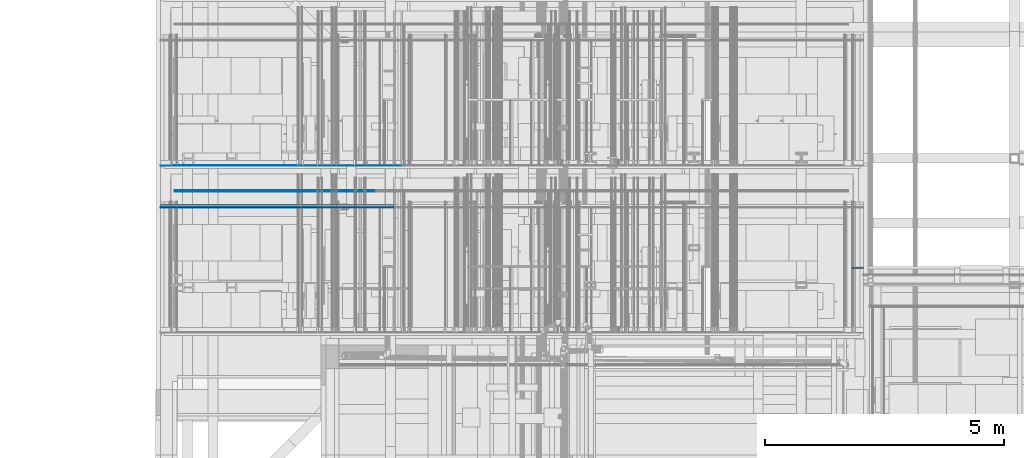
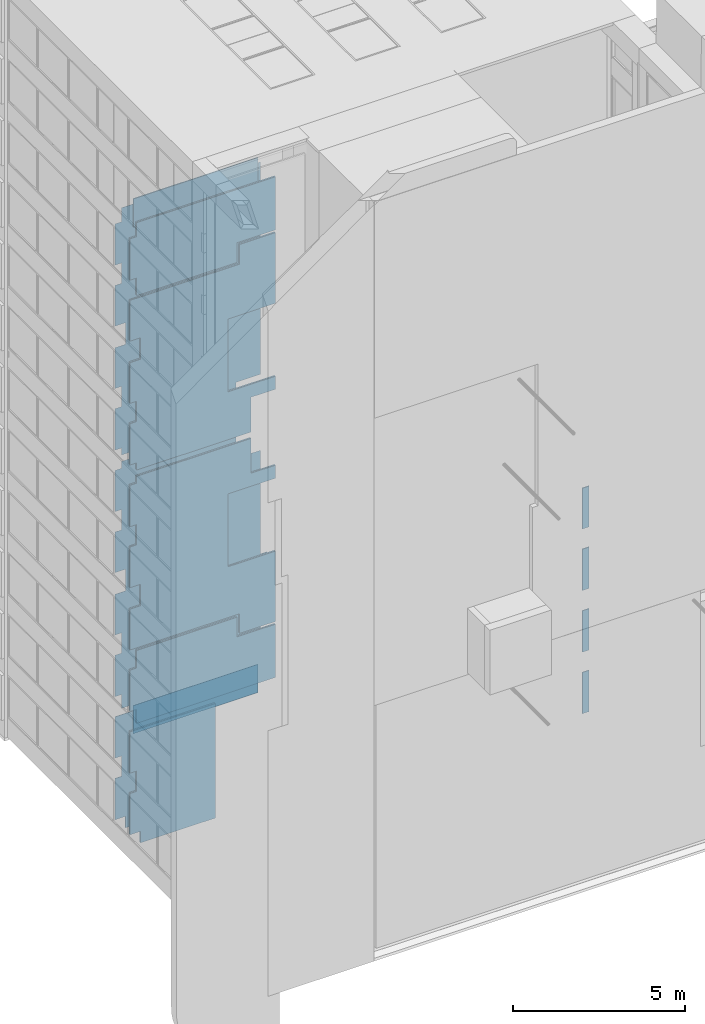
# One storey, part 247 of 583: 21 slabs.
"""IFC2X3 building model written with IfcOpenShell, lengths in metres."""

from ifc_helpers import new_model, entity, si_unit, converted_unit, derived_unit, money_unit, direction, frame, origin_with_axes, place, context, subcontext, project, spatial, faceted_brep, material, type_object, element, save


model = new_model("IFC2X3")

# Units and contexts
model_context = context("Model", 3, precision=1e-05, world=origin_with_axes(), true_north=direction((0.0, 1.0)))
body_context = subcontext(model_context, "Body", "Model", "MODEL_VIEW", scale=1.0)
ifc_project = project(units=[si_unit("LENGTHUNIT", "METRE"), si_unit("AREAUNIT", "SQUARE_METRE"), si_unit("VOLUMEUNIT", "CUBIC_METRE"), si_unit("ABSORBEDDOSEUNIT", "GRAY"), si_unit("AMOUNTOFSUBSTANCEUNIT", "MOLE"), si_unit("DOSEEQUIVALENTUNIT", "SIEVERT"), si_unit("ELECTRICCAPACITANCEUNIT", "FARAD"), si_unit("ELECTRICCHARGEUNIT", "COULOMB"), si_unit("ELECTRICCONDUCTANCEUNIT", "SIEMENS"), si_unit("ELECTRICCURRENTUNIT", "AMPERE"), si_unit("ELECTRICRESISTANCEUNIT", "OHM"), si_unit("ELECTRICVOLTAGEUNIT", "VOLT"), si_unit("ENERGYUNIT", "JOULE"), si_unit("FORCEUNIT", "NEWTON"), si_unit("FREQUENCYUNIT", "HERTZ"), si_unit("ILLUMINANCEUNIT", "LUX"), si_unit("INDUCTANCEUNIT", "HENRY"), si_unit("LUMINOUSFLUXUNIT", "LUMEN"), si_unit("LUMINOUSINTENSITYUNIT", "CANDELA"), si_unit("MAGNETICFLUXDENSITYUNIT", "TESLA"), si_unit("MAGNETICFLUXUNIT", "WEBER"), si_unit("MASSUNIT", "GRAM"), converted_unit("PLANEANGLEUNIT", "degree", entity("IfcReal", 0.0174532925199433), si_unit("PLANEANGLEUNIT", "RADIAN"), dimensions=[0, 0, 0, 0, 0, 0, 0]), si_unit("POWERUNIT", "WATT"), si_unit("PRESSUREUNIT", "PASCAL"), si_unit("RADIOACTIVITYUNIT", "BECQUEREL"), si_unit("SOLIDANGLEUNIT", "STERADIAN"), si_unit("THERMODYNAMICTEMPERATUREUNIT", "KELVIN"), si_unit("TIMEUNIT", "SECOND"), derived_unit("ACCELERATIONUNIT", [(si_unit("LENGTHUNIT", "METRE"), 1), (si_unit("TIMEUNIT", "SECOND"), -2)]), derived_unit("ANGULARVELOCITYUNIT", [(converted_unit("PLANEANGLEUNIT", "degree", entity("IfcReal", 0.0174532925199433), si_unit("PLANEANGLEUNIT", "RADIAN"), dimensions=[0, 0, 0, 0, 0, 0, 0]), 1), (si_unit("TIMEUNIT", "SECOND"), -1)]), derived_unit("CURVATUREUNIT", [(converted_unit("PLANEANGLEUNIT", "degree", entity("IfcReal", 0.0174532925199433), si_unit("PLANEANGLEUNIT", "RADIAN"), dimensions=[0, 0, 0, 0, 0, 0, 0]), 1), (si_unit("LENGTHUNIT", "METRE"), -1)]), derived_unit("DYNAMICVISCOSITYUNIT", [(si_unit("PRESSUREUNIT", "PASCAL"), 1), (si_unit("TIMEUNIT", "SECOND"), 1)]), derived_unit("HEATFLUXDENSITYUNIT", [(si_unit("POWERUNIT", "WATT"), 1), (si_unit("LENGTHUNIT", "METRE"), -2)]), derived_unit("HEATINGVALUEUNIT", [(si_unit("ENERGYUNIT", "JOULE"), 1), (si_unit("MASSUNIT", "GRAM"), -1)]), derived_unit("INTEGERCOUNTRATEUNIT", [(si_unit("TIMEUNIT", "SECOND"), -1)]), derived_unit("IONCONCENTRATIONUNIT", [(si_unit("MASSUNIT", "GRAM"), 1), (si_unit("VOLUMEUNIT", "CUBIC_METRE"), -1)]), derived_unit("ISOTHERMALMOISTURECAPACITYUNIT", [(si_unit("VOLUMEUNIT", "CUBIC_METRE"), 1), (si_unit("MASSUNIT", "GRAM"), -1)]), derived_unit("KINEMATICVISCOSITYUNIT", [(si_unit("AREAUNIT", "SQUARE_METRE"), 1), (si_unit("TIMEUNIT", "SECOND"), -1)]), derived_unit("LINEARFORCEUNIT", [(si_unit("FORCEUNIT", "NEWTON"), 1), (si_unit("LENGTHUNIT", "METRE"), -1)]), derived_unit("LINEARMOMENTUNIT", [(si_unit("FORCEUNIT", "NEWTON"), 1), (si_unit("LENGTHUNIT", "METRE"), -1)]), derived_unit("LINEARSTIFFNESSUNIT", [(si_unit("FORCEUNIT", "NEWTON"), 1), (si_unit("LENGTHUNIT", "METRE"), -1)]), derived_unit("LINEARVELOCITYUNIT", [(si_unit("LENGTHUNIT", "METRE"), 1), (si_unit("TIMEUNIT", "SECOND"), -1)]), derived_unit("LUMINOUSINTENSITYDISTRIBUTIONUNIT", [(si_unit("LUMINOUSINTENSITYUNIT", "CANDELA"), 1), (si_unit("LUMINOUSFLUXUNIT", "LUMEN"), -1)]), derived_unit("MASSDENSITYUNIT", [(si_unit("MASSUNIT", "GRAM"), 1), (si_unit("VOLUMEUNIT", "CUBIC_METRE"), -1)]), derived_unit("MASSFLOWRATEUNIT", [(si_unit("MASSUNIT", "GRAM"), 1), (si_unit("TIMEUNIT", "SECOND"), -1)]), derived_unit("MASSPERLENGTHUNIT", [(si_unit("MASSUNIT", "GRAM"), 1), (si_unit("LENGTHUNIT", "METRE"), -1)]), derived_unit("MODULUSOFELASTICITYUNIT", [(si_unit("FORCEUNIT", "NEWTON"), 1), (si_unit("AREAUNIT", "SQUARE_METRE"), -1)]), derived_unit("MODULUSOFLINEARSUBGRADEREACTIONUNIT", [(si_unit("FORCEUNIT", "NEWTON"), 1), (si_unit("LENGTHUNIT", "METRE"), -2)]), derived_unit("MODULUSOFROTATIONALSUBGRADEREACTIONUNIT", [(si_unit("FORCEUNIT", "NEWTON"), 1), (si_unit("LENGTHUNIT", "METRE"), 1)]), derived_unit("MODULUSOFSUBGRADEREACTIONUNIT", [(si_unit("FORCEUNIT", "NEWTON"), 1), (si_unit("VOLUMEUNIT", "CUBIC_METRE"), -1)]), derived_unit("MOISTUREDIFFUSIVITYUNIT", [(si_unit("VOLUMEUNIT", "CUBIC_METRE"), 1), (si_unit("TIMEUNIT", "SECOND"), -1)]), derived_unit("MOLECULARWEIGHTUNIT", [(si_unit("MASSUNIT", "GRAM"), 1), (si_unit("AMOUNTOFSUBSTANCEUNIT", "MOLE"), -1)]), derived_unit("PLANARFORCEUNIT", [(si_unit("FORCEUNIT", "NEWTON"), 1), (si_unit("LENGTHUNIT", "METRE"), -2)]), derived_unit("ROTATIONALFREQUENCYUNIT", [(si_unit("TIMEUNIT", "SECOND"), -1)]), derived_unit("ROTATIONALMASSUNIT", [(si_unit("MASSUNIT", "GRAM"), 1), (si_unit("LENGTHUNIT", "METRE"), 2)]), derived_unit("ROTATIONALSTIFFNESSUNIT", [(si_unit("FORCEUNIT", "NEWTON"), 1), (si_unit("LENGTHUNIT", "METRE"), 1), (converted_unit("PLANEANGLEUNIT", "degree", entity("IfcReal", 0.0174532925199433), si_unit("PLANEANGLEUNIT", "RADIAN"), dimensions=[0, 0, 0, 0, 0, 0, 0]), -1)]), derived_unit("SECTIONAREAINTEGRALUNIT", [(si_unit("LENGTHUNIT", "METRE"), 5)]), derived_unit("SECTIONMODULUSUNIT", [(si_unit("LENGTHUNIT", "METRE"), 3)]), derived_unit("SHEARMODULUSUNIT", [(si_unit("FORCEUNIT", "NEWTON"), 1), (si_unit("AREAUNIT", "SQUARE_METRE"), -1)]), derived_unit("SOUNDPOWERUNIT", [(si_unit("ENERGYUNIT", "JOULE"), 1), (si_unit("TIMEUNIT", "SECOND"), -1)]), derived_unit("SPECIFICHEATCAPACITYUNIT", [(si_unit("FORCEUNIT", "NEWTON"), 1), (si_unit("MASSUNIT", "GRAM"), -1), (si_unit("THERMODYNAMICTEMPERATUREUNIT", "KELVIN"), -1)]), derived_unit("TEMPERATUREGRADIENTUNIT", [(si_unit("THERMODYNAMICTEMPERATUREUNIT", "KELVIN"), 1), (si_unit("LENGTHUNIT", "METRE"), -1)]), derived_unit("THERMALADMITTANCEUNIT", [(si_unit("POWERUNIT", "WATT"), 1), (si_unit("AREAUNIT", "SQUARE_METRE"), -1), (si_unit("THERMODYNAMICTEMPERATUREUNIT", "KELVIN"), -1)]), derived_unit("THERMALCONDUCTANCEUNIT", [(si_unit("POWERUNIT", "WATT"), 1), (si_unit("LENGTHUNIT", "METRE"), -1), (si_unit("THERMODYNAMICTEMPERATUREUNIT", "KELVIN"), -1)]), derived_unit("THERMALEXPANSIONCOEFFICIENTUNIT", [(si_unit("THERMODYNAMICTEMPERATUREUNIT", "KELVIN"), -1)]), derived_unit("THERMALRESISTANCEUNIT", [(si_unit("AREAUNIT", "SQUARE_METRE"), 1), (si_unit("POWERUNIT", "WATT"), -1)]), derived_unit("THERMALTRANSMITTANCEUNIT", [(si_unit("POWERUNIT", "WATT"), 1), (si_unit("AREAUNIT", "SQUARE_METRE"), -1), (si_unit("THERMODYNAMICTEMPERATUREUNIT", "KELVIN"), -1)]), derived_unit("TORQUEUNIT", [(si_unit("FORCEUNIT", "NEWTON"), 1), (si_unit("LENGTHUNIT", "METRE"), 1)]), derived_unit("VAPORPERMEABILITYUNIT", [(si_unit("MASSUNIT", "GRAM"), 1), (si_unit("TIMEUNIT", "SECOND"), -1)]), derived_unit("VOLUMETRICFLOWRATEUNIT", [(si_unit("VOLUMEUNIT", "CUBIC_METRE"), 1), (si_unit("TIMEUNIT", "SECOND"), -1)]), derived_unit("WARPINGCONSTANTUNIT", [(si_unit("LENGTHUNIT", "METRE"), 6)]), derived_unit("WARPINGMOMENTUNIT", [(si_unit("FORCEUNIT", "NEWTON"), 1), (si_unit("LENGTHUNIT", "METRE"), 2)]), money_unit("GBP")], contexts=[model_context])

# Site, building, storey
site_placement = place(None, origin_with_axes())
site = spatial("IfcSite", under=ifc_project, at=site_placement, Name="Site", CompositionType="ELEMENT")
building_placement = place(site_placement, origin_with_axes())
building = spatial("IfcBuilding", under=site, at=building_placement, Name="Building01", CompositionType="ELEMENT")
storey_placement = place(building_placement, frame((0.0, 0.0, 20.78), z_axis=(0.0, 0.0, 1.0), x_axis=(1.0, 0.0, 0.0)))
storey = spatial("IfcBuildingStorey", under=building, at=storey_placement, Name="RL", CompositionType="ELEMENT", Elevation=20.78)

# Slabs
ifc_material_1 = material(Name="A_BSUK_CeilingSoffitFinishes_Suspended")
slab_type_1 = type_object("IfcSlabType", Name="A-FloorsSlabs A_BSUK_Slabs", PredefinedType="FLOOR")
placement = place(storey_placement, frame((0.0, 0.0, -20.78), z_axis=(0.0, 0.0, 1.0), x_axis=(1.0, 0.0, 0.0)))
element("IfcSlab", 1, at=placement, inside=storey, type_object=slab_type_1, material=ifc_material_1, Name="A-FloorsSlabs A_BSUK_Slabs", ObjectType="CompoundSlabLeaf", context=body_context, shape_type="Brep", body=[
    faceted_brep([(4.98, 7.765, 8.6725), (4.98, 7.78, 8.6725), (4.98, 7.78, 9.097536), (4.98, 7.765, 9.097536), (4.98, 7.765, 7.6725), (4.98, 7.78, 7.6725), (4.98, 7.765, 6.595), (4.98, 7.78, 6.595), (3.78, 7.765, 6.595), (3.78, 7.78, 6.595), (3.78, 7.765, 7.295), (3.78, 7.78, 7.295), (3.151781, 7.765, 7.295), (3.151781, 7.78, 7.295), (0.1, 7.765, 7.295), (0.1, 7.78, 7.295), (0.1, 7.765, 8.742), (0.1, 7.78, 8.742), (0.448, 7.765, 8.742), (0.448, 7.78, 8.742), (0.448, 7.765, 9.508), (0.448, 7.78, 9.508), (0.1, 7.765, 9.508), (0.1, 7.78, 9.508), (0.1, 7.765, 10.955), (0.1, 7.78, 10.955), (0.318, 7.765, 10.955), (0.318, 7.78, 10.955), (0.318, 7.765, 11.675), (0.318, 7.78, 11.675), (0.1, 7.765, 11.675), (0.1, 7.78, 11.675), (0.1, 7.765, 13.145), (0.1, 7.78, 13.145), (0.318, 7.765, 13.145), (0.318, 7.78, 13.145), (0.318, 7.765, 13.3875), (0.318, 7.78, 13.3875), (4.164428, 7.765, 13.3875), (4.164428, 7.78, 13.3875), (4.164428, 7.765, 12.15), (4.164428, 7.78, 12.15), (4.98, 7.765, 12.15), (4.98, 7.78, 12.15), (4.98, 7.765, 11.687536), (4.98, 7.78, 11.687536), (3.385, 7.765, 11.687536), (3.385, 7.78, 11.687536), (3.385, 7.765, 9.097536), (3.385, 7.78, 9.097536)], [[[0, 1, 2, 3]], [[4, 5, 1, 0]], [[6, 7, 5, 4]], [[8, 9, 7, 6]], [[10, 11, 9, 8]], [[12, 13, 11, 10]], [[14, 15, 13, 12]], [[16, 17, 15, 14]], [[18, 19, 17, 16]], [[20, 21, 19, 18]], [[22, 23, 21, 20]], [[24, 25, 23, 22]], [[26, 27, 25, 24]], [[28, 29, 27, 26]], [[30, 31, 29, 28]], [[32, 33, 31, 30]], [[34, 35, 33, 32]], [[36, 37, 35, 34]], [[38, 39, 37, 36]], [[40, 41, 39, 38]], [[42, 43, 41, 40]], [[44, 45, 43, 42]], [[46, 47, 45, 44]], [[48, 49, 47, 46]], [[3, 2, 49, 48]], [[1, 5, 7, 9, 11, 13, 15, 17, 19, 21, 23, 25, 27, 29, 31, 33, 35, 37, 39, 41, 43, 45, 47, 49, 2]], [[3, 48, 46, 44, 42, 40, 38, 36, 34, 32, 30, 28, 26, 24, 22, 20, 18, 16, 14, 12, 10, 8, 6, 4, 0]]]),
])
element("IfcSlab", 2, at=placement, inside=storey, type_object=slab_type_1, material=ifc_material_1, Name="A-FloorsSlabs A_BSUK_Slabs", ObjectType="CompoundSlabLeaf", context=body_context, shape_type="Brep", body=[
    faceted_brep([(4.98, 7.765, 17.9025), (4.98, 7.78, 17.9025), (4.98, 7.78, 18.395), (4.98, 7.765, 18.395), (4.232781, 7.765, 17.9025), (4.232781, 7.78, 17.9025), (3.385, 7.765, 17.9025), (3.385, 7.78, 17.9025), (3.385, 7.765, 15.3125), (3.385, 7.78, 15.3125), (4.98, 7.765, 15.3125), (4.98, 7.78, 15.3125), (4.98, 7.765, 14.85), (4.98, 7.78, 14.85), (4.164428, 7.765, 14.85), (4.164428, 7.78, 14.85), (4.164428, 7.765, 13.6125), (4.164428, 7.78, 13.6125), (0.318, 7.765, 13.6125), (0.318, 7.78, 13.6125), (0.318, 7.765, 13.865), (0.318, 7.78, 13.865), (0.1, 7.765, 13.865), (0.1, 7.78, 13.865), (0.1, 7.765, 15.335), (0.1, 7.78, 15.335), (0.318, 7.765, 15.335), (0.318, 7.78, 15.335), (0.318, 7.765, 16.055), (0.318, 7.78, 16.055), (0.1, 7.765, 16.055), (0.1, 7.78, 16.055), (0.1, 7.765, 17.502), (0.1, 7.78, 17.502), (0.448, 7.765, 17.502), (0.448, 7.78, 17.502), (0.448, 7.765, 18.268), (0.448, 7.78, 18.268), (0.1, 7.765, 18.268), (0.1, 7.78, 18.268), (0.1, 7.765, 19.715), (0.1, 7.78, 19.715), (3.151781, 7.765, 19.715), (3.151781, 7.78, 19.715), (3.78, 7.765, 19.715), (3.78, 7.78, 19.715), (3.78, 7.765, 20.415), (3.78, 7.78, 20.415), (4.98, 7.765, 20.415), (4.98, 7.78, 20.415), (4.98, 7.765, 19.395), (4.98, 7.78, 19.395)], [[[0, 1, 2, 3]], [[4, 5, 1, 0]], [[6, 7, 5, 4]], [[8, 9, 7, 6]], [[10, 11, 9, 8]], [[12, 13, 11, 10]], [[14, 15, 13, 12]], [[16, 17, 15, 14]], [[18, 19, 17, 16]], [[20, 21, 19, 18]], [[22, 23, 21, 20]], [[24, 25, 23, 22]], [[26, 27, 25, 24]], [[28, 29, 27, 26]], [[30, 31, 29, 28]], [[32, 33, 31, 30]], [[34, 35, 33, 32]], [[36, 37, 35, 34]], [[38, 39, 37, 36]], [[40, 41, 39, 38]], [[42, 43, 41, 40]], [[44, 45, 43, 42]], [[46, 47, 45, 44]], [[48, 49, 47, 46]], [[50, 51, 49, 48]], [[3, 2, 51, 50]], [[1, 5, 7, 9, 11, 13, 15, 17, 19, 21, 23, 25, 27, 29, 31, 33, 35, 37, 39, 41, 43, 45, 47, 49, 51, 2]], [[3, 50, 48, 46, 44, 42, 40, 38, 36, 34, 32, 30, 28, 26, 24, 22, 20, 18, 16, 14, 12, 10, 8, 6, 4, 0]]]),
])
element("IfcSlab", 3, at=placement, inside=storey, type_object=slab_type_1, material=ifc_material_1, Name="A-FloorsSlabs A_BSUK_Slabs", ObjectType="CompoundSlabLeaf", context=body_context, shape_type="Brep", body=[
    faceted_brep([(4.98, 7.765, 20.51), (4.98, 7.78, 20.51), (4.98, 7.78, 22.4), (4.98, 7.765, 22.4), (3.685, 7.765, 20.51), (3.685, 7.78, 20.51), (3.685, 7.765, 19.81), (3.685, 7.78, 19.81), (0.318, 7.765, 19.81), (0.318, 7.78, 19.81), (0.318, 7.765, 20.435), (0.318, 7.78, 20.435), (0.1, 7.765, 20.435), (0.1, 7.78, 20.435), (0.1, 7.765, 21.905), (0.1, 7.78, 21.905), (0.318, 7.765, 21.905), (0.318, 7.78, 21.905), (0.318, 7.765, 22.4), (0.318, 7.78, 22.4)], [[[0, 1, 2, 3]], [[4, 5, 1, 0]], [[6, 7, 5, 4]], [[8, 9, 7, 6]], [[10, 11, 9, 8]], [[12, 13, 11, 10]], [[14, 15, 13, 12]], [[16, 17, 15, 14]], [[18, 19, 17, 16]], [[3, 2, 19, 18]], [[1, 5, 7, 9, 11, 13, 15, 17, 19, 2]], [[3, 18, 16, 14, 12, 10, 8, 6, 4, 0]]]),
])
element("IfcSlab", 4, at=placement, inside=storey, type_object=slab_type_1, material=ifc_material_1, Name="A-FloorsSlabs A_BSUK_Slabs", ObjectType="CompoundSlabLeaf", context=body_context, shape_type="Brep", body=[
    faceted_brep([(4.98, 7.765, 4.61), (4.98, 7.78, 4.61), (4.98, 7.78, 6.5), (4.98, 7.765, 6.5), (0.318, 7.765, 4.61), (0.318, 7.78, 4.61), (0.318, 7.765, 5.105), (0.318, 7.78, 5.105), (0.1, 7.765, 5.105), (0.1, 7.78, 5.105), (0.1, 7.765, 6.575), (0.1, 7.78, 6.575), (0.318, 7.765, 6.575), (0.318, 7.78, 6.575), (0.318, 7.765, 7.2), (0.318, 7.78, 7.2), (3.685, 7.765, 7.2), (3.685, 7.78, 7.2), (3.685, 7.765, 6.5), (3.685, 7.78, 6.5)], [[[0, 1, 2, 3]], [[4, 5, 1, 0]], [[6, 7, 5, 4]], [[8, 9, 7, 6]], [[10, 11, 9, 8]], [[12, 13, 11, 10]], [[14, 15, 13, 12]], [[16, 17, 15, 14]], [[18, 19, 17, 16]], [[3, 2, 19, 18]], [[1, 5, 7, 9, 11, 13, 15, 17, 19, 2]], [[3, 18, 16, 14, 12, 10, 8, 6, 4, 0]]]),
])
element("IfcSlab", 5, at=placement, inside=storey, type_object=slab_type_1, material=ifc_material_1, Name="A-FloorsSlabs A_BSUK_Slabs", ObjectType="CompoundSlabLeaf", context=body_context, shape_type="Brep", body=[
    faceted_brep([(0.448, 7.765, 0.318), (0.448, 7.78, 0.318), (2.970286, 7.78, 0.318), (2.970286, 7.765, 0.318), (0.448, 7.765, 0.725), (0.448, 7.78, 0.725), (0.1, 7.765, 0.725), (0.1, 7.78, 0.725), (0.1, 7.765, 2.195), (0.1, 7.78, 2.195), (0.318, 7.765, 2.195), (0.318, 7.78, 2.195), (0.318, 7.765, 2.915), (0.318, 7.78, 2.915), (0.1, 7.765, 2.915), (0.1, 7.78, 2.915), (0.1, 7.765, 4.385), (0.1, 7.78, 4.385), (2.970286, 7.765, 4.385), (2.970286, 7.78, 4.385)], [[[0, 1, 2, 3]], [[4, 5, 1, 0]], [[6, 7, 5, 4]], [[8, 9, 7, 6]], [[10, 11, 9, 8]], [[12, 13, 11, 10]], [[14, 15, 13, 12]], [[16, 17, 15, 14]], [[18, 19, 17, 16]], [[3, 2, 19, 18]], [[1, 5, 7, 9, 11, 13, 15, 17, 19, 2]], [[3, 18, 16, 14, 12, 10, 8, 6, 4, 0]]]),
])
ifc_material_2 = material(Name="A_BSUK_Timber_Miscellaneous")
element("IfcSlab", 6, at=placement, inside=storey, type_object=slab_type_1, material=ifc_material_2, Name="A-FloorsSlabs A_BSUK_Slabs", ObjectType="CompoundSlabLeaf", context=body_context, shape_type="Brep", body=[
    faceted_brep([(14.567, 6.5, 0.725), (14.567, 6.525, 0.725), (14.800002, 6.525, 0.725), (14.800002, 6.5, 0.725), (14.567, 6.5, 2.195), (14.567, 6.525, 2.195), (14.8, 6.5, 2.195), (14.8, 6.525, 2.195)], [[[0, 1, 2, 3]], [[4, 5, 1, 0]], [[6, 7, 5, 4]], [[3, 2, 7, 6]], [[1, 5, 7, 2]], [[3, 6, 4, 0]]]),
])
element("IfcSlab", 7, at=placement, inside=storey, type_object=slab_type_1, material=ifc_material_2, Name="A-FloorsSlabs A_BSUK_Slabs", ObjectType="CompoundSlabLeaf", context=body_context, shape_type="Brep", body=[
    faceted_brep([(14.567, 6.5, 2.915), (14.567, 6.525, 2.915), (14.800002, 6.525, 2.915), (14.800002, 6.5, 2.915), (14.567, 6.5, 4.385), (14.567, 6.525, 4.385), (14.8, 6.5, 4.385), (14.8, 6.525, 4.385)], [[[0, 1, 2, 3]], [[4, 5, 1, 0]], [[6, 7, 5, 4]], [[3, 2, 7, 6]], [[1, 5, 7, 2]], [[3, 6, 4, 0]]]),
])
element("IfcSlab", 8, at=placement, inside=storey, type_object=slab_type_1, material=ifc_material_2, Name="A-FloorsSlabs A_BSUK_Slabs", ObjectType="CompoundSlabLeaf", context=body_context, shape_type="Brep", body=[
    faceted_brep([(14.567, 6.5, 5.105), (14.567, 6.525, 5.105), (14.800002, 6.525, 5.105), (14.800002, 6.5, 5.105), (14.567, 6.5, 6.575), (14.567, 6.525, 6.575), (14.8, 6.5, 6.575), (14.8, 6.525, 6.575)], [[[0, 1, 2, 3]], [[4, 5, 1, 0]], [[6, 7, 5, 4]], [[3, 2, 7, 6]], [[1, 5, 7, 2]], [[3, 6, 4, 0]]]),
])
element("IfcSlab", 9, at=placement, inside=storey, type_object=slab_type_1, material=ifc_material_2, Name="A-FloorsSlabs A_BSUK_Slabs", ObjectType="CompoundSlabLeaf", context=body_context, shape_type="Brep", body=[
    faceted_brep([(14.567, 6.5, 7.289669), (14.567, 6.525, 7.289669), (14.800002, 6.525, 7.289669), (14.800002, 6.5, 7.289669), (14.567, 6.5, 8.742124), (14.567, 6.525, 8.742124), (14.8, 6.5, 8.742124), (14.8, 6.525, 8.742124)], [[[0, 1, 2, 3]], [[4, 5, 1, 0]], [[6, 7, 5, 4]], [[3, 2, 7, 6]], [[1, 5, 7, 2]], [[3, 6, 4, 0]]]),
])
element("IfcSlab", 10, at=placement, inside=storey, type_object=slab_type_1, material=ifc_material_1, Name="A-FloorsSlabs A_BSUK_Slabs", ObjectType="CompoundSlabLeaf", context=body_context, shape_type="Brep", body=[
    faceted_brep([(0.4, 8.115, 22.0125), (0.4, 8.13, 22.0125), (4.593, 8.13, 22.0125), (4.593, 8.115, 22.0125), (0.4, 8.115, 23.0125), (0.4, 8.13, 23.0125), (4.593, 8.115, 23.0125), (4.593, 8.13, 23.0125)], [[[0, 1, 2, 3]], [[4, 5, 1, 0]], [[6, 7, 5, 4]], [[3, 2, 7, 6]], [[1, 5, 7, 2]], [[3, 6, 4, 0]]]),
])
element("IfcSlab", 11, at=placement, inside=storey, type_object=slab_type_1, material=ifc_material_1, Name="A-FloorsSlabs A_BSUK_Slabs", ObjectType="CompoundSlabLeaf", context=body_context, shape_type="Brep", body=[
    faceted_brep([(0.4, 8.115, 3.997), (0.4, 8.13, 3.997), (4.593, 8.13, 3.997), (4.593, 8.115, 3.997), (0.4, 8.115, 4.997), (0.4, 8.13, 4.997), (4.593, 8.115, 4.997), (4.593, 8.13, 4.997)], [[[0, 1, 2, 3]], [[4, 5, 1, 0]], [[6, 7, 5, 4]], [[3, 2, 7, 6]], [[1, 5, 7, 2]], [[3, 6, 4, 0]]]),
])
element("IfcSlab", 12, at=placement, inside=storey, type_object=slab_type_1, material=ifc_material_1, Name="A-FloorsSlabs A_BSUK_Slabs", ObjectType="CompoundSlabLeaf", context=body_context, shape_type="Brep", body=[
    faceted_brep([(0.4, 8.1, 22.0125), (0.4, 8.115, 22.0125), (4.593, 8.115, 22.0125), (4.593, 8.1, 22.0125), (0.4, 8.1, 23.0125), (0.4, 8.115, 23.0125), (4.593, 8.1, 23.0125), (4.593, 8.115, 23.0125)], [[[0, 1, 2, 3]], [[4, 5, 1, 0]], [[6, 7, 5, 4]], [[3, 2, 7, 6]], [[1, 5, 7, 2]], [[3, 6, 4, 0]]]),
])
element("IfcSlab", 13, at=placement, inside=storey, type_object=slab_type_1, material=ifc_material_1, Name="A-FloorsSlabs A_BSUK_Slabs", ObjectType="CompoundSlabLeaf", context=body_context, shape_type="Brep", body=[
    faceted_brep([(0.4, 8.1, 3.997), (0.4, 8.115, 3.997), (4.593, 8.115, 3.997), (4.593, 8.1, 3.997), (0.4, 8.1, 4.997), (0.4, 8.115, 4.997), (4.593, 8.1, 4.997), (4.593, 8.115, 4.997)], [[[0, 1, 2, 3]], [[4, 5, 1, 0]], [[6, 7, 5, 4]], [[3, 2, 7, 6]], [[1, 5, 7, 2]], [[3, 6, 4, 0]]]),
])
ifc_material_3 = material(Name="A_BSUK_ExpandedPolystyreneBoards")
element("IfcSlab", 14, at=placement, inside=storey, type_object=slab_type_1, material=ifc_material_3, Name="A-FloorsSlabs A_BSUK_Slabs", ObjectType="CompoundSlabLeaf", context=body_context, shape_type="Brep", body=[
    faceted_brep([(4.164428, 8.64, 14.85), (4.164428, 8.643, 14.85), (4.98, 8.643, 14.85), (4.98, 8.64, 14.85), (4.164428, 8.64, 13.6125), (4.164428, 8.643, 13.6125), (0.318, 8.64, 13.6125), (0.318, 8.643, 13.6125), (0.318, 8.64, 13.865), (0.318, 8.643, 13.865), (0.1, 8.64, 13.865), (0.1, 8.643, 13.865), (0.1, 8.64, 15.335), (0.1, 8.643, 15.335), (0.318, 8.64, 15.335), (0.318, 8.643, 15.335), (0.318, 8.64, 16.055), (0.318, 8.643, 16.055), (0.1, 8.64, 16.055), (0.1, 8.643, 16.055), (0.1, 8.64, 17.502), (0.1, 8.643, 17.502), (0.448, 8.64, 17.502), (0.448, 8.643, 17.502), (0.448, 8.64, 18.268), (0.448, 8.643, 18.268), (0.1, 8.64, 18.268), (0.1, 8.643, 18.268), (0.1, 8.64, 19.715), (0.1, 8.643, 19.715), (0.318, 8.64, 19.715), (0.318, 8.643, 19.715), (0.318, 8.64, 20.435), (0.318, 8.643, 20.435), (0.1, 8.64, 20.435), (0.1, 8.643, 20.435), (0.1, 8.64, 21.905), (0.1, 8.643, 21.905), (0.318, 8.64, 21.905), (0.318, 8.643, 21.905), (0.318, 8.64, 22.4), (0.318, 8.643, 22.4), (4.98, 8.64, 22.4), (4.98, 8.643, 22.4), (4.98, 8.64, 19.392), (4.98, 8.643, 19.392), (5.205, 8.64, 19.392), (5.205, 8.643, 19.392), (5.205, 8.64, 18.392), (5.205, 8.643, 18.392), (4.98, 8.64, 18.392), (4.98, 8.643, 18.392), (4.98, 8.64, 18.0), (4.98, 8.643, 18.0)], [[[0, 1, 2, 3]], [[4, 5, 1, 0]], [[6, 7, 5, 4]], [[8, 9, 7, 6]], [[10, 11, 9, 8]], [[12, 13, 11, 10]], [[14, 15, 13, 12]], [[16, 17, 15, 14]], [[18, 19, 17, 16]], [[20, 21, 19, 18]], [[22, 23, 21, 20]], [[24, 25, 23, 22]], [[26, 27, 25, 24]], [[28, 29, 27, 26]], [[30, 31, 29, 28]], [[32, 33, 31, 30]], [[34, 35, 33, 32]], [[36, 37, 35, 34]], [[38, 39, 37, 36]], [[40, 41, 39, 38]], [[42, 43, 41, 40]], [[44, 45, 43, 42]], [[46, 47, 45, 44]], [[48, 49, 47, 46]], [[50, 51, 49, 48]], [[52, 53, 51, 50]], [[3, 2, 53, 52]], [[1, 5, 7, 9, 11, 13, 15, 17, 19, 21, 23, 25, 27, 29, 31, 33, 35, 37, 39, 41, 43, 45, 47, 49, 51, 53, 2]], [[3, 52, 50, 48, 46, 44, 42, 40, 38, 36, 34, 32, 30, 28, 26, 24, 22, 20, 18, 16, 14, 12, 10, 8, 6, 4, 0]]]),
])
element("IfcSlab", 15, at=placement, inside=storey, type_object=slab_type_1, material=ifc_material_3, Name="A-FloorsSlabs A_BSUK_Slabs", ObjectType="CompoundSlabLeaf", context=body_context, shape_type="Brep", body=[
    faceted_brep([(4.98, 8.64, 12.15), (4.98, 8.643, 12.15), (4.164428, 8.643, 12.15), (4.164428, 8.64, 12.15), (4.98, 8.64, 9.0), (4.98, 8.643, 9.0), (4.98, 8.64, 8.4725), (4.98, 8.643, 8.4725), (5.205, 8.64, 8.4725), (5.205, 8.643, 8.4725), (5.205, 8.64, 7.4725), (5.205, 8.643, 7.4725), (4.98, 8.64, 7.4725), (4.98, 8.643, 7.4725), (4.98, 8.64, 4.61), (4.98, 8.643, 4.61), (0.318, 8.64, 4.61), (0.318, 8.643, 4.61), (0.318, 8.64, 5.105), (0.318, 8.643, 5.105), (0.1, 8.64, 5.105), (0.1, 8.643, 5.105), (0.1, 8.64, 6.575), (0.1, 8.643, 6.575), (0.318, 8.64, 6.575), (0.318, 8.643, 6.575), (0.318, 8.64, 7.295), (0.318, 8.643, 7.295), (0.1, 8.64, 7.295), (0.1, 8.643, 7.295), (0.1, 8.64, 8.742), (0.1, 8.643, 8.742), (0.448, 8.64, 8.742), (0.448, 8.643, 8.742), (0.448, 8.64, 9.508), (0.448, 8.643, 9.508), (0.1, 8.64, 9.508), (0.1, 8.643, 9.508), (0.1, 8.64, 10.955), (0.1, 8.643, 10.955), (0.318, 8.64, 10.955), (0.318, 8.643, 10.955), (0.318, 8.64, 11.675), (0.318, 8.643, 11.675), (0.1, 8.64, 11.675), (0.1, 8.643, 11.675), (0.1, 8.64, 13.145), (0.1, 8.643, 13.145), (0.318, 8.64, 13.145), (0.318, 8.643, 13.145), (0.318, 8.64, 13.3875), (0.318, 8.643, 13.3875), (4.164428, 8.64, 13.3875), (4.164428, 8.643, 13.3875)], [[[0, 1, 2, 3]], [[4, 5, 1, 0]], [[6, 7, 5, 4]], [[8, 9, 7, 6]], [[10, 11, 9, 8]], [[12, 13, 11, 10]], [[14, 15, 13, 12]], [[16, 17, 15, 14]], [[18, 19, 17, 16]], [[20, 21, 19, 18]], [[22, 23, 21, 20]], [[24, 25, 23, 22]], [[26, 27, 25, 24]], [[28, 29, 27, 26]], [[30, 31, 29, 28]], [[32, 33, 31, 30]], [[34, 35, 33, 32]], [[36, 37, 35, 34]], [[38, 39, 37, 36]], [[40, 41, 39, 38]], [[42, 43, 41, 40]], [[44, 45, 43, 42]], [[46, 47, 45, 44]], [[48, 49, 47, 46]], [[50, 51, 49, 48]], [[52, 53, 51, 50]], [[3, 2, 53, 52]], [[1, 5, 7, 9, 11, 13, 15, 17, 19, 21, 23, 25, 27, 29, 31, 33, 35, 37, 39, 41, 43, 45, 47, 49, 51, 53, 2]], [[3, 52, 50, 48, 46, 44, 42, 40, 38, 36, 34, 32, 30, 28, 26, 24, 22, 20, 18, 16, 14, 12, 10, 8, 6, 4, 0]]]),
])
ifc_material_4 = material(Name="A_BSUK_Carpet-Pile")
element("IfcSlab", 16, at=placement, inside=storey, type_object=slab_type_1, material=ifc_material_4, Name="A-FloorsSlabs A_BSUK_Slabs", ObjectType="CompoundSlabLeaf", context=body_context, shape_type="Brep", body=[
    faceted_brep([(0.448, 8.643, 0.318), (0.448, 8.655, 0.318), (2.970286, 8.655, 0.318), (2.970286, 8.643, 0.318), (0.448, 8.643, 0.725), (0.448, 8.655, 0.725), (0.1, 8.643, 0.725), (0.1, 8.655, 0.725), (0.1, 8.643, 2.195), (0.1, 8.655, 2.195), (0.318, 8.643, 2.195), (0.318, 8.655, 2.195), (0.318, 8.643, 2.915), (0.318, 8.655, 2.915), (0.1, 8.643, 2.915), (0.1, 8.655, 2.915), (0.1, 8.643, 4.385), (0.1, 8.655, 4.385), (2.970286, 8.643, 4.385), (2.970286, 8.655, 4.385)], [[[0, 1, 2, 3]], [[4, 5, 1, 0]], [[6, 7, 5, 4]], [[8, 9, 7, 6]], [[10, 11, 9, 8]], [[12, 13, 11, 10]], [[14, 15, 13, 12]], [[16, 17, 15, 14]], [[18, 19, 17, 16]], [[3, 2, 19, 18]], [[1, 5, 7, 9, 11, 13, 15, 17, 19, 2]], [[3, 18, 16, 14, 12, 10, 8, 6, 4, 0]]]),
])
slab_type_2 = type_object("IfcSlabType", Name="A-FloorsSlabs A_BSUK_ExpandedPolystyreneBoards", PredefinedType="FLOOR")
element("IfcSlab", 17, at=placement, inside=storey, type_object=slab_type_2, material=ifc_material_3, Name="A-FloorsSlabs A_BSUK_ExpandedPolystyreneBoards", ObjectType="CompoundSlabLeaf", context=body_context, shape_type="Brep", body=[
    faceted_brep([(4.98, 7.78, 8.6725), (4.98, 7.83, 8.6725), (4.98, 7.83, 9.097536), (4.98, 7.78, 9.097536), (4.98, 7.78, 7.6725), (4.98, 7.83, 7.6725), (4.98, 7.78, 6.595), (4.98, 7.83, 6.595), (3.78, 7.78, 6.595), (3.78, 7.83, 6.595), (3.78, 7.78, 7.295), (3.78, 7.83, 7.295), (3.151781, 7.78, 7.295), (3.151781, 7.83, 7.295), (0.1, 7.78, 7.295), (0.1, 7.83, 7.295), (0.1, 7.78, 8.742), (0.1, 7.83, 8.742), (0.448, 7.78, 8.742), (0.448, 7.83, 8.742), (0.448, 7.78, 9.508), (0.448, 7.83, 9.508), (0.1, 7.78, 9.508), (0.1, 7.83, 9.508), (0.1, 7.78, 10.955), (0.1, 7.83, 10.955), (0.318, 7.78, 10.955), (0.318, 7.83, 10.955), (0.318, 7.78, 11.675), (0.318, 7.83, 11.675), (0.1, 7.78, 11.675), (0.1, 7.83, 11.675), (0.1, 7.78, 13.145), (0.1, 7.83, 13.145), (0.318, 7.78, 13.145), (0.318, 7.83, 13.145), (0.318, 7.78, 13.3875), (0.318, 7.83, 13.3875), (4.164428, 7.78, 13.3875), (4.164428, 7.83, 13.3875), (4.164428, 7.78, 12.15), (4.164428, 7.83, 12.15), (4.98, 7.78, 12.15), (4.98, 7.83, 12.15), (4.98, 7.78, 11.687536), (4.98, 7.83, 11.687536), (3.385, 7.78, 11.687536), (3.385, 7.83, 11.687536), (3.385, 7.78, 9.097536), (3.385, 7.83, 9.097536)], [[[0, 1, 2, 3]], [[4, 5, 1, 0]], [[6, 7, 5, 4]], [[8, 9, 7, 6]], [[10, 11, 9, 8]], [[12, 13, 11, 10]], [[14, 15, 13, 12]], [[16, 17, 15, 14]], [[18, 19, 17, 16]], [[20, 21, 19, 18]], [[22, 23, 21, 20]], [[24, 25, 23, 22]], [[26, 27, 25, 24]], [[28, 29, 27, 26]], [[30, 31, 29, 28]], [[32, 33, 31, 30]], [[34, 35, 33, 32]], [[36, 37, 35, 34]], [[38, 39, 37, 36]], [[40, 41, 39, 38]], [[42, 43, 41, 40]], [[44, 45, 43, 42]], [[46, 47, 45, 44]], [[48, 49, 47, 46]], [[3, 2, 49, 48]], [[1, 5, 7, 9, 11, 13, 15, 17, 19, 21, 23, 25, 27, 29, 31, 33, 35, 37, 39, 41, 43, 45, 47, 49, 2]], [[3, 48, 46, 44, 42, 40, 38, 36, 34, 32, 30, 28, 26, 24, 22, 20, 18, 16, 14, 12, 10, 8, 6, 4, 0]]]),
])
element("IfcSlab", 18, at=placement, inside=storey, type_object=slab_type_2, material=ifc_material_3, Name="A-FloorsSlabs A_BSUK_ExpandedPolystyreneBoards", ObjectType="CompoundSlabLeaf", context=body_context, shape_type="Brep", body=[
    faceted_brep([(4.98, 7.78, 17.9025), (4.98, 7.83, 17.9025), (4.98, 7.83, 18.395), (4.98, 7.78, 18.395), (4.232781, 7.78, 17.9025), (4.232781, 7.83, 17.9025), (3.385, 7.78, 17.9025), (3.385, 7.83, 17.9025), (3.385, 7.78, 15.3125), (3.385, 7.83, 15.3125), (4.98, 7.78, 15.3125), (4.98, 7.83, 15.3125), (4.98, 7.78, 14.85), (4.98, 7.83, 14.85), (4.164428, 7.78, 14.85), (4.164428, 7.83, 14.85), (4.164428, 7.78, 13.6125), (4.164428, 7.83, 13.6125), (0.318, 7.78, 13.6125), (0.318, 7.83, 13.6125), (0.318, 7.78, 13.865), (0.318, 7.83, 13.865), (0.1, 7.78, 13.865), (0.1, 7.83, 13.865), (0.1, 7.78, 15.335), (0.1, 7.83, 15.335), (0.318, 7.78, 15.335), (0.318, 7.83, 15.335), (0.318, 7.78, 16.055), (0.318, 7.83, 16.055), (0.1, 7.78, 16.055), (0.1, 7.83, 16.055), (0.1, 7.78, 17.502), (0.1, 7.83, 17.502), (0.448, 7.78, 17.502), (0.448, 7.83, 17.502), (0.448, 7.78, 18.268), (0.448, 7.83, 18.268), (0.1, 7.78, 18.268), (0.1, 7.83, 18.268), (0.1, 7.78, 19.715), (0.1, 7.83, 19.715), (3.151781, 7.78, 19.715), (3.151781, 7.83, 19.715), (3.78, 7.78, 19.715), (3.78, 7.83, 19.715), (3.78, 7.78, 20.415), (3.78, 7.83, 20.415), (4.98, 7.78, 20.415), (4.98, 7.83, 20.415), (4.98, 7.78, 19.395), (4.98, 7.83, 19.395)], [[[0, 1, 2, 3]], [[4, 5, 1, 0]], [[6, 7, 5, 4]], [[8, 9, 7, 6]], [[10, 11, 9, 8]], [[12, 13, 11, 10]], [[14, 15, 13, 12]], [[16, 17, 15, 14]], [[18, 19, 17, 16]], [[20, 21, 19, 18]], [[22, 23, 21, 20]], [[24, 25, 23, 22]], [[26, 27, 25, 24]], [[28, 29, 27, 26]], [[30, 31, 29, 28]], [[32, 33, 31, 30]], [[34, 35, 33, 32]], [[36, 37, 35, 34]], [[38, 39, 37, 36]], [[40, 41, 39, 38]], [[42, 43, 41, 40]], [[44, 45, 43, 42]], [[46, 47, 45, 44]], [[48, 49, 47, 46]], [[50, 51, 49, 48]], [[3, 2, 51, 50]], [[1, 5, 7, 9, 11, 13, 15, 17, 19, 21, 23, 25, 27, 29, 31, 33, 35, 37, 39, 41, 43, 45, 47, 49, 51, 2]], [[3, 50, 48, 46, 44, 42, 40, 38, 36, 34, 32, 30, 28, 26, 24, 22, 20, 18, 16, 14, 12, 10, 8, 6, 4, 0]]]),
])
element("IfcSlab", 19, at=placement, inside=storey, type_object=slab_type_2, material=ifc_material_3, Name="A-FloorsSlabs A_BSUK_ExpandedPolystyreneBoards", ObjectType="CompoundSlabLeaf", context=body_context, shape_type="Brep", body=[
    faceted_brep([(4.98, 7.78, 20.51), (4.98, 7.83, 20.51), (4.98, 7.83, 22.4), (4.98, 7.78, 22.4), (3.685, 7.78, 20.51), (3.685, 7.83, 20.51), (3.685, 7.78, 19.81), (3.685, 7.83, 19.81), (0.318, 7.78, 19.81), (0.318, 7.83, 19.81), (0.318, 7.78, 20.435), (0.318, 7.83, 20.435), (0.1, 7.78, 20.435), (0.1, 7.83, 20.435), (0.1, 7.78, 21.905), (0.1, 7.83, 21.905), (0.318, 7.78, 21.905), (0.318, 7.83, 21.905), (0.318, 7.78, 22.4), (0.318, 7.83, 22.4)], [[[0, 1, 2, 3]], [[4, 5, 1, 0]], [[6, 7, 5, 4]], [[8, 9, 7, 6]], [[10, 11, 9, 8]], [[12, 13, 11, 10]], [[14, 15, 13, 12]], [[16, 17, 15, 14]], [[18, 19, 17, 16]], [[3, 2, 19, 18]], [[1, 5, 7, 9, 11, 13, 15, 17, 19, 2]], [[3, 18, 16, 14, 12, 10, 8, 6, 4, 0]]]),
])
element("IfcSlab", 20, at=placement, inside=storey, type_object=slab_type_2, material=ifc_material_3, Name="A-FloorsSlabs A_BSUK_ExpandedPolystyreneBoards", ObjectType="CompoundSlabLeaf", context=body_context, shape_type="Brep", body=[
    faceted_brep([(4.98, 7.78, 4.61), (4.98, 7.83, 4.61), (4.98, 7.83, 6.5), (4.98, 7.78, 6.5), (0.318, 7.78, 4.61), (0.318, 7.83, 4.61), (0.318, 7.78, 5.105), (0.318, 7.83, 5.105), (0.1, 7.78, 5.105), (0.1, 7.83, 5.105), (0.1, 7.78, 6.575), (0.1, 7.83, 6.575), (0.318, 7.78, 6.575), (0.318, 7.83, 6.575), (0.318, 7.78, 7.2), (0.318, 7.83, 7.2), (3.685, 7.78, 7.2), (3.685, 7.83, 7.2), (3.685, 7.78, 6.5), (3.685, 7.83, 6.5)], [[[0, 1, 2, 3]], [[4, 5, 1, 0]], [[6, 7, 5, 4]], [[8, 9, 7, 6]], [[10, 11, 9, 8]], [[12, 13, 11, 10]], [[14, 15, 13, 12]], [[16, 17, 15, 14]], [[18, 19, 17, 16]], [[3, 2, 19, 18]], [[1, 5, 7, 9, 11, 13, 15, 17, 19, 2]], [[3, 18, 16, 14, 12, 10, 8, 6, 4, 0]]]),
])
element("IfcSlab", 21, at=placement, inside=storey, type_object=slab_type_2, material=ifc_material_3, Name="A-FloorsSlabs A_BSUK_ExpandedPolystyreneBoards", ObjectType="CompoundSlabLeaf", context=body_context, shape_type="Brep", body=[
    faceted_brep([(0.448, 7.78, 0.318), (0.448, 7.83, 0.318), (2.970286, 7.83, 0.318), (2.970286, 7.78, 0.318), (0.448, 7.78, 0.725), (0.448, 7.83, 0.725), (0.1, 7.78, 0.725), (0.1, 7.83, 0.725), (0.1, 7.78, 2.195), (0.1, 7.83, 2.195), (0.318, 7.78, 2.195), (0.318, 7.83, 2.195), (0.318, 7.78, 2.915), (0.318, 7.83, 2.915), (0.1, 7.78, 2.915), (0.1, 7.83, 2.915), (0.1, 7.78, 4.385), (0.1, 7.83, 4.385), (2.970286, 7.78, 4.385), (2.970286, 7.83, 4.385)], [[[0, 1, 2, 3]], [[4, 5, 1, 0]], [[6, 7, 5, 4]], [[8, 9, 7, 6]], [[10, 11, 9, 8]], [[12, 13, 11, 10]], [[14, 15, 13, 12]], [[16, 17, 15, 14]], [[18, 19, 17, 16]], [[3, 2, 19, 18]], [[1, 5, 7, 9, 11, 13, 15, 17, 19, 2]], [[3, 18, 16, 14, 12, 10, 8, 6, 4, 0]]]),
])

save(model, "model.ifc")
